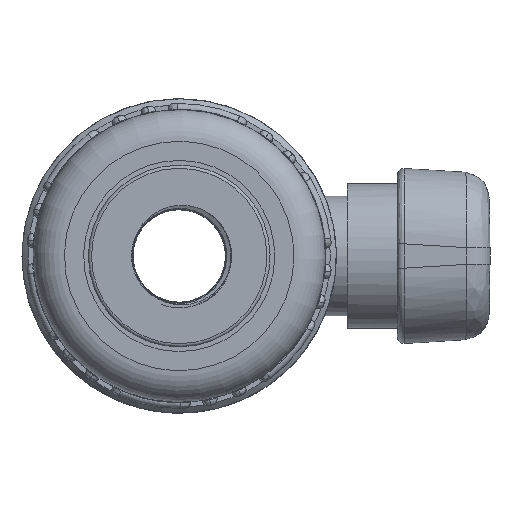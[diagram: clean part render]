
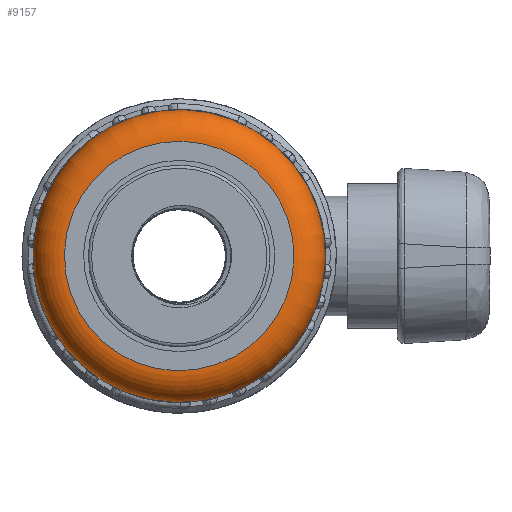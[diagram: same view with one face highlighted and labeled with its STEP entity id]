
A CAD part, front view. The second image highlights one B-rep face of the part: STEP entity #9157.
In plain terms, the highlighted toroidal (fillet/blend) face has major radius 18.25 mm and minor radius 5 mm.
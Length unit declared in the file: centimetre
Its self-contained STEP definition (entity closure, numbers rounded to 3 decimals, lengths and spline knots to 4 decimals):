
#1764=TOROIDAL_SURFACE('',#9802,1.825,0.5);
#1786=FACE_BOUND('',#2588,.T.);
#2041=FACE_OUTER_BOUND('',#2587,.T.);
#2587=EDGE_LOOP('',(#6570));
#2588=EDGE_LOOP('',(#6571));
#3135=CIRCLE('',#9800,1.825);
#3137=CIRCLE('',#9803,2.325);
#3741=VERTEX_POINT('',#39054);
#3743=VERTEX_POINT('',#39059);
#4791=EDGE_CURVE('',#3741,#3741,#3135,.T.);
#4793=EDGE_CURVE('',#3743,#3743,#3137,.T.);
#6570=ORIENTED_EDGE('',*,*,#4793,.F.);
#6571=ORIENTED_EDGE('',*,*,#4791,.T.);
#9157=ADVANCED_FACE('',(#2041,#1786),#1764,.T.);
#9800=AXIS2_PLACEMENT_3D('',#39055,#11165,#11166);
#9802=AXIS2_PLACEMENT_3D('',#39058,#11169,#11170);
#9803=AXIS2_PLACEMENT_3D('',#39060,#11171,#11172);
#11165=DIRECTION('center_axis',(0.,1.,0.));
#11166=DIRECTION('ref_axis',(0.751,0.,-0.661));
#11169=DIRECTION('center_axis',(0.,1.,0.));
#11170=DIRECTION('ref_axis',(0.661,0.,0.751));
#11171=DIRECTION('center_axis',(0.,1.,0.));
#11172=DIRECTION('ref_axis',(0.751,0.,-0.661));
#39054=CARTESIAN_POINT('',(-1.3698,-3.06,1.206));
#39055=CARTESIAN_POINT('Origin',(0.,-3.06,0.));
#39058=CARTESIAN_POINT('Origin',(0.,-2.56,0.));
#39059=CARTESIAN_POINT('',(-1.745,-2.56,1.5364));
#39060=CARTESIAN_POINT('Origin',(0.,-2.56,0.));
